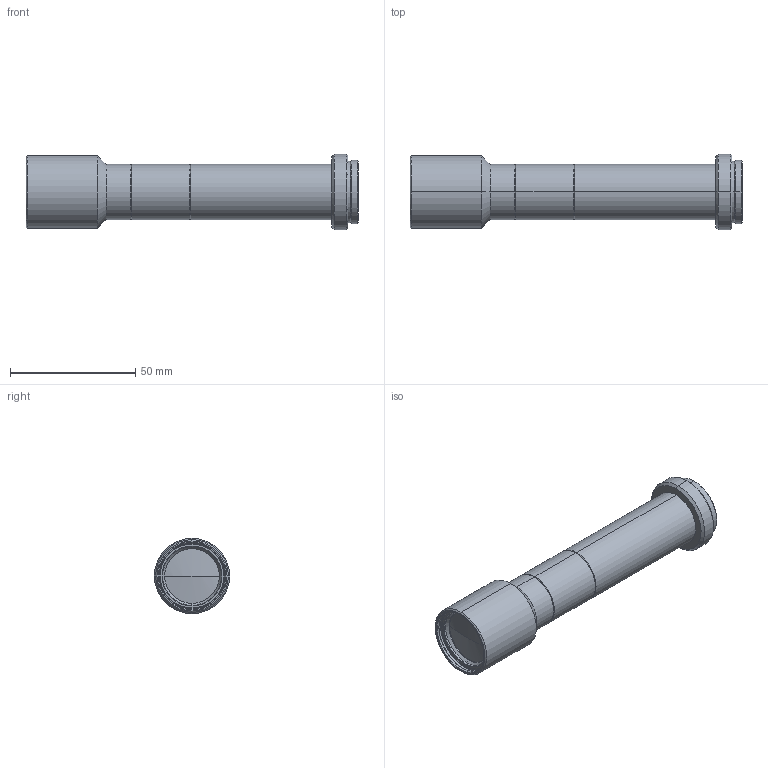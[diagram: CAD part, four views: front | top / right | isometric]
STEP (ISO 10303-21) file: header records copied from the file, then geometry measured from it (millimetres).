
FILE_DESCRIPTION (( 'STEP AP203' ), '1' );
FILE_NAME ('VS-TCH4-110.STEP', '2015-02-26T08:56:04', ( 'miura_vst' ), ( '' ), 'SwSTEP 2.0', 'SolidWorks 2015', '' );
FILE_SCHEMA (( 'CONFIG_CONTROL_DESIGN' ));
Length unit declared in the file: millimetre
Products named in the file (1): VS-TCH4-110
Bounding box: 132.5 x 30 x 30 mm (x, y, z)
Volume: 44727.3 mm3; surface area: 15637.6 mm2
Topology: 1 solids, 1 shells, 107 faces, 216 edges, 122 vertices
Faces by surface type: cone 56, cylinder 36, plane 11, sphere 4
Entity records: 2843 total; most frequent: DIRECTION 556, CARTESIAN_POINT 446, ORIENTED_EDGE 432, AXIS2_PLACEMENT_3D 232, EDGE_CURVE 216, CIRCLE 124, VERTEX_POINT 122, EDGE_LOOP 118
